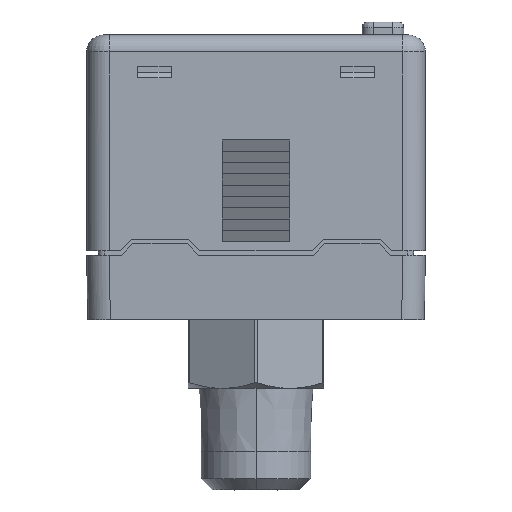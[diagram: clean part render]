
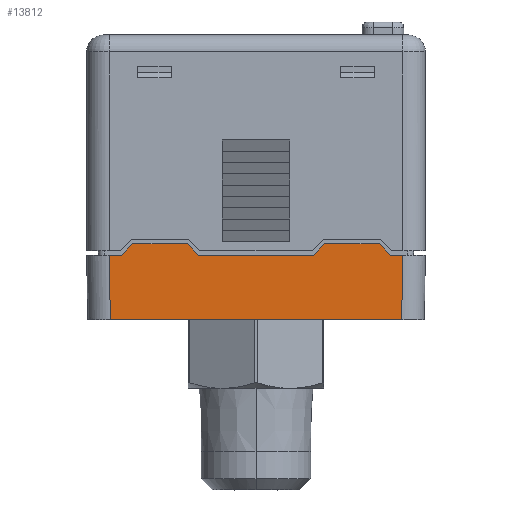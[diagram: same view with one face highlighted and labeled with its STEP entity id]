
A CAD part, left-side view. The second image highlights one B-rep face of the part: STEP entity #13812.
In plain terms, the highlighted planar face has unit normal (-1, 0, -0.018).
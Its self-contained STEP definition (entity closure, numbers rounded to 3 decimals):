
#6166 = EDGE_LOOP ( 'NONE', ( #11312, #11335, #11339, #11309, #11332, #11329, #11326, #11324, #11321, #11319, #11304, #11302 ) ) ;
#10962 = VERTEX_POINT ( 'NONE', #16101 ) ;
#10964 = VERTEX_POINT ( 'NONE', #16103 ) ;
#10991 = VERTEX_POINT ( 'NONE', #16139 ) ;
#10994 = VERTEX_POINT ( 'NONE', #16145 ) ;
#10996 = VERTEX_POINT ( 'NONE', #16148 ) ;
#10998 = VERTEX_POINT ( 'NONE', #16150 ) ;
#11000 = VERTEX_POINT ( 'NONE', #16154 ) ;
#11001 = VERTEX_POINT ( 'NONE', #16156 ) ;
#11002 = VERTEX_POINT ( 'NONE', #16158 ) ;
#11003 = VERTEX_POINT ( 'NONE', #16160 ) ;
#11004 = VERTEX_POINT ( 'NONE', #16162 ) ;
#11302 = ORIENTED_EDGE ( 'NONE', *, *, #14514, .T. ) ;
#11304 = ORIENTED_EDGE ( 'NONE', *, *, #14434, .F. ) ;
#11309 = ORIENTED_EDGE ( 'NONE', *, *, #14437, .T. ) ;
#11312 = ORIENTED_EDGE ( 'NONE', *, *, #14515, .T. ) ;
#11319 = ORIENTED_EDGE ( 'NONE', *, *, #14449, .T. ) ;
#11321 = ORIENTED_EDGE ( 'NONE', *, *, #14448, .T. ) ;
#11324 = ORIENTED_EDGE ( 'NONE', *, *, #14446, .T. ) ;
#11326 = ORIENTED_EDGE ( 'NONE', *, *, #14444, .T. ) ;
#11329 = ORIENTED_EDGE ( 'NONE', *, *, #14442, .T. ) ;
#11332 = ORIENTED_EDGE ( 'NONE', *, *, #14440, .T. ) ;
#11335 = ORIENTED_EDGE ( 'NONE', *, *, #14516, .F. ) ;
#11339 = ORIENTED_EDGE ( 'NONE', *, *, #14465, .T. ) ;
#11405 = VERTEX_POINT ( 'NONE', #16633 ) ;
#13812 = ADVANCED_FACE ( 'NONE', ( #19309 ), #20566, .T. ) ;
#14434 = EDGE_CURVE ( 'NONE', #11004, #11000, #23790, .T. ) ;
#14437 = EDGE_CURVE ( 'NONE', #11003, #11405, #23797, .T. ) ;
#14440 = EDGE_CURVE ( 'NONE', #11405, #11001, #23804, .T. ) ;
#14442 = EDGE_CURVE ( 'NONE', #11001, #10998, #23812, .T. ) ;
#14444 = EDGE_CURVE ( 'NONE', #10998, #11002, #23816, .T. ) ;
#14446 = EDGE_CURVE ( 'NONE', #11002, #10996, #23808, .T. ) ;
#14448 = EDGE_CURVE ( 'NONE', #10996, #10994, #23820, .T. ) ;
#14449 = EDGE_CURVE ( 'NONE', #10994, #11000, #23826, .T. ) ;
#14465 = EDGE_CURVE ( 'NONE', #10991, #11003, #23858, .T. ) ;
#14514 = EDGE_CURVE ( 'NONE', #11004, #10962, #23970, .T. ) ;
#14515 = EDGE_CURVE ( 'NONE', #10962, #10964, #23971, .T. ) ;
#14516 = EDGE_CURVE ( 'NONE', #10991, #10964, #23975, .T. ) ;
#16101 = CARTESIAN_POINT ( 'NONE',  ( -14.901, 12.901, 0. ) ) ;
#16103 = CARTESIAN_POINT ( 'NONE',  ( -14.901, -12.901, 0. ) ) ;
#16139 = CARTESIAN_POINT ( 'NONE',  ( -15., -13., 5.7 ) ) ;
#16145 = CARTESIAN_POINT ( 'NONE',  ( -15.017, 10.9, 6.7 ) ) ;
#16148 = CARTESIAN_POINT ( 'NONE',  ( -15.017, 6.1, 6.7 ) ) ;
#16150 = CARTESIAN_POINT ( 'NONE',  ( -15., -5.1, 5.7 ) ) ;
#16154 = CARTESIAN_POINT ( 'NONE',  ( -15., 11.9, 5.7 ) ) ;
#16156 = CARTESIAN_POINT ( 'NONE',  ( -15.017, -6.1, 6.7 ) ) ;
#16158 = CARTESIAN_POINT ( 'NONE',  ( -15., 5.1, 5.7 ) ) ;
#16160 = CARTESIAN_POINT ( 'NONE',  ( -15., -11.9, 5.7 ) ) ;
#16162 = CARTESIAN_POINT ( 'NONE',  ( -15., 13., 5.7 ) ) ;
#16633 = CARTESIAN_POINT ( 'NONE',  ( -15.017, -10.9, 6.7 ) ) ;
#19309 = FACE_OUTER_BOUND ( 'NONE', #6166, .T. ) ;
#20564 = CARTESIAN_POINT ( 'NONE',  ( -15., 16.56, 5.7 ) ) ;
#20566 = PLANE ( 'NONE',  #21481 ) ;
#20568 = DIRECTION ( 'NONE',  ( -1., 0., -0.017 ) ) ;
#20569 = DIRECTION ( 'NONE',  ( -0.017, 0., 1. ) ) ;
#21481 = AXIS2_PLACEMENT_3D ( 'NONE', #20564, #20568, #20569 ) ;
#23121 = CARTESIAN_POINT ( 'NONE',  ( -15., 0., 5.7 ) ) ;
#23122 = CARTESIAN_POINT ( 'NONE',  ( -15., -11.9, 5.7 ) ) ;
#23125 = DIRECTION ( 'NONE',  ( 0., -1., 0. ) ) ;
#23129 = CARTESIAN_POINT ( 'NONE',  ( -15.017, 16.56, 6.7 ) ) ;
#23131 = DIRECTION ( 'NONE',  ( -0.012, 0.707, 0.707 ) ) ;
#23132 = CARTESIAN_POINT ( 'NONE',  ( -15., 5.1, 5.7 ) ) ;
#23135 = CARTESIAN_POINT ( 'NONE',  ( -15.017, 16.56, 6.7 ) ) ;
#23137 = DIRECTION ( 'NONE',  ( 0., 1., 0. ) ) ;
#23140 = CARTESIAN_POINT ( 'NONE',  ( -15.017, -6.1, 6.7 ) ) ;
#23141 = DIRECTION ( 'NONE',  ( 0.012, 0.707, -0.707 ) ) ;
#23144 = CARTESIAN_POINT ( 'NONE',  ( -15., 16.56, 5.7 ) ) ;
#23145 = DIRECTION ( 'NONE',  ( 0., 1., 0. ) ) ;
#23149 = DIRECTION ( 'NONE',  ( -0.012, 0.707, 0.707 ) ) ;
#23153 = DIRECTION ( 'NONE',  ( 0., 1., 0. ) ) ;
#23154 = CARTESIAN_POINT ( 'NONE',  ( -15.017, 10.9, 6.7 ) ) ;
#23155 = DIRECTION ( 'NONE',  ( 0.012, 0.707, -0.707 ) ) ;
#23186 = CARTESIAN_POINT ( 'NONE',  ( -15., 16.56, 5.7 ) ) ;
#23187 = DIRECTION ( 'NONE',  ( 0., 1., 0. ) ) ;
#23296 = CARTESIAN_POINT ( 'NONE',  ( -15., 13., 5.7 ) ) ;
#23297 = DIRECTION ( 'NONE',  ( 0.017, -0.017, -1. ) ) ;
#23298 = CARTESIAN_POINT ( 'NONE',  ( -14.901, 0., 0. ) ) ;
#23299 = DIRECTION ( 'NONE',  ( 0., -1., 0. ) ) ;
#23300 = CARTESIAN_POINT ( 'NONE',  ( -15.338, -13.338, 25.074 ) ) ;
#23301 = DIRECTION ( 'NONE',  ( 0.017, 0.017, -1. ) ) ;
#23790 = LINE ( 'NONE', #23121, #23799 ) ;
#23797 = LINE ( 'NONE', #23122, #23805 ) ;
#23799 = VECTOR ( 'NONE', #23125, 1000. ) ;
#23804 = LINE ( 'NONE', #23129, #23811 ) ;
#23805 = VECTOR ( 'NONE', #23131, 1000. ) ;
#23808 = LINE ( 'NONE', #23132, #23823 ) ;
#23811 = VECTOR ( 'NONE', #23137, 1000. ) ;
#23812 = LINE ( 'NONE', #23140, #23815 ) ;
#23815 = VECTOR ( 'NONE', #23141, 1000. ) ;
#23816 = LINE ( 'NONE', #23144, #23819 ) ;
#23819 = VECTOR ( 'NONE', #23145, 1000. ) ;
#23820 = LINE ( 'NONE', #23135, #23827 ) ;
#23823 = VECTOR ( 'NONE', #23149, 1000. ) ;
#23826 = LINE ( 'NONE', #23154, #23829 ) ;
#23827 = VECTOR ( 'NONE', #23153, 1000. ) ;
#23829 = VECTOR ( 'NONE', #23155, 1000. ) ;
#23858 = LINE ( 'NONE', #23186, #23860 ) ;
#23860 = VECTOR ( 'NONE', #23187, 1000. ) ;
#23970 = LINE ( 'NONE', #23296, #23973 ) ;
#23971 = LINE ( 'NONE', #23298, #23978 ) ;
#23973 = VECTOR ( 'NONE', #23297, 1000. ) ;
#23975 = LINE ( 'NONE', #23300, #23980 ) ;
#23978 = VECTOR ( 'NONE', #23299, 1000. ) ;
#23980 = VECTOR ( 'NONE', #23301, 1000. ) ;
